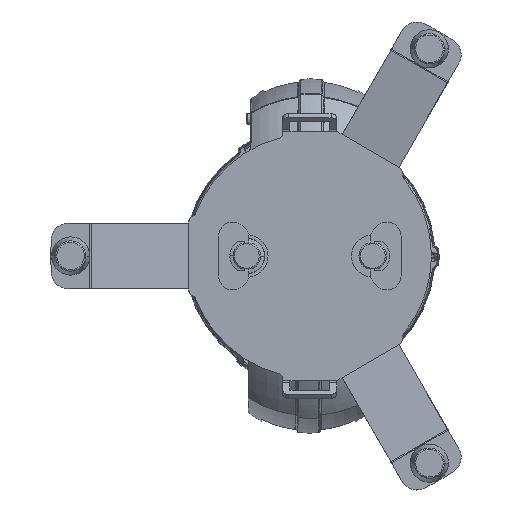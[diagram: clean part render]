
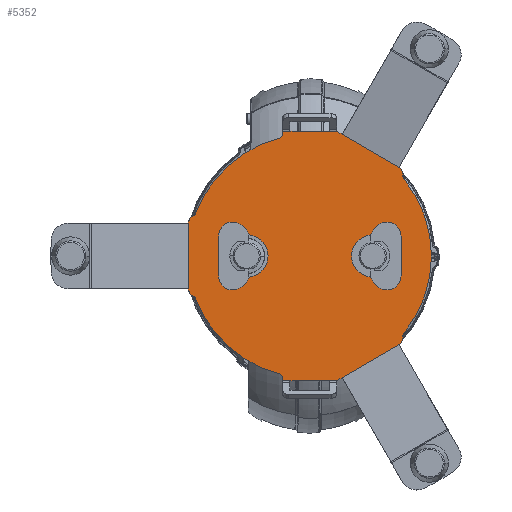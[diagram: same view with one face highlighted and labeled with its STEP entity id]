
A CAD part, front view. The second image highlights one B-rep face of the part: STEP entity #5352.
In plain terms, the highlighted planar face has unit normal (0, -1, 0).
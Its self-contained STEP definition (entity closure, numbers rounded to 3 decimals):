
#3941=DIRECTION('',(0.866,0.,-0.5));
#3942=VECTOR('',#3941,4.5);
#3943=CARTESIAN_POINT('',(19.,-43.5,88.172));
#3944=LINE('',#3943,#3942);
#3945=DIRECTION('',(0.866,0.,-0.5));
#3946=VECTOR('',#3945,46.263);
#3947=CARTESIAN_POINT('',(22.897,-43.5,85.922));
#3948=LINE('',#3947,#3946);
#3949=CARTESIAN_POINT('',(58.668,-43.5,57.262));
#3950=DIRECTION('',(0.,1.,0.));
#3951=DIRECTION('',(0.613,0.,0.79));
#3952=AXIS2_PLACEMENT_3D('',#3949,#3950,#3951);
#3954=CARTESIAN_POINT('',(69.664,-43.5,56.982));
#3955=DIRECTION('',(0.,-1.,0.));
#3956=DIRECTION('',(-1.,0.,0.025));
#3957=AXIS2_PLACEMENT_3D('',#3954,#3955,#3956);
#3959=CARTESIAN_POINT('',(0.,-43.5,0.));
#3960=DIRECTION('',(0.,1.,0.));
#3961=DIRECTION('',(0.774,0.,0.633));
#3962=AXIS2_PLACEMENT_3D('',#3959,#3960,#3961);
#3964=CARTESIAN_POINT('',(0.,-43.5,0.));
#3965=DIRECTION('',(0.,1.,0.));
#3966=DIRECTION('',(1.,0.,0.));
#3967=AXIS2_PLACEMENT_3D('',#3964,#3965,#3966);
#3969=CARTESIAN_POINT('',(69.664,-43.5,-56.982));
#3970=DIRECTION('',(0.,-1.,0.));
#3971=DIRECTION('',(-0.774,0.,0.633));
#3972=AXIS2_PLACEMENT_3D('',#3969,#3970,#3971);
#3974=CARTESIAN_POINT('',(58.668,-43.5,-57.262));
#3975=DIRECTION('',(0.,1.,0.));
#3976=DIRECTION('',(1.,0.,0.025));
#3977=AXIS2_PLACEMENT_3D('',#3974,#3975,#3976);
#3979=DIRECTION('',(-0.866,0.,-0.5));
#3980=VECTOR('',#3979,46.263);
#3981=CARTESIAN_POINT('',(62.962,-43.5,-62.79));
#3982=LINE('',#3981,#3980);
#3983=DIRECTION('',(-0.866,0.,-0.5));
#3984=VECTOR('',#3983,4.5);
#3985=CARTESIAN_POINT('',(22.897,-43.5,-85.922));
#3986=LINE('',#3985,#3984);
#3987=DIRECTION('',(-1.,0.,0.));
#3988=VECTOR('',#3987,28.);
#3989=CARTESIAN_POINT('',(14.,-43.5,-88.172));
#3990=LINE('',#3989,#3988);
#3991=DIRECTION('',(0.,0.,1.));
#3992=VECTOR('',#3991,1.16);
#3993=CARTESIAN_POINT('',(-19.,-43.5,-88.172));
#3994=LINE('',#3993,#3992);
#3995=CARTESIAN_POINT('',(-23.,-43.5,-87.011));
#3996=DIRECTION('',(0.,-1.,0.));
#3997=DIRECTION('',(1.,0.,0.));
#3998=AXIS2_PLACEMENT_3D('',#3995,#3996,#3997);
#4000=CARTESIAN_POINT('',(0.,-43.5,0.));
#4001=DIRECTION('',(0.,1.,0.));
#4002=DIRECTION('',(-0.256,0.,-0.967));
#4003=AXIS2_PLACEMENT_3D('',#4000,#4001,#4002);
#4005=CARTESIAN_POINT('',(-84.18,-43.5,-31.84));
#4006=DIRECTION('',(0.,-1.,0.));
#4007=DIRECTION('',(0.935,0.,0.354));
#4008=AXIS2_PLACEMENT_3D('',#4005,#4006,#4007);
#4010=CARTESIAN_POINT('',(-78.924,-43.5,-22.177));
#4011=DIRECTION('',(0.,1.,0.));
#4012=DIRECTION('',(-0.478,0.,-0.878));
#4013=AXIS2_PLACEMENT_3D('',#4010,#4011,#4012);
#4015=CARTESIAN_POINT('',(-78.924,-43.5,22.177));
#4016=DIRECTION('',(0.,1.,0.));
#4017=DIRECTION('',(-0.991,0.,0.136));
#4018=AXIS2_PLACEMENT_3D('',#4015,#4016,#4017);
#4020=CARTESIAN_POINT('',(-84.18,-43.5,31.84));
#4021=DIRECTION('',(0.,-1.,0.));
#4022=DIRECTION('',(0.478,0.,-0.878));
#4023=AXIS2_PLACEMENT_3D('',#4020,#4021,#4022);
#4025=CARTESIAN_POINT('',(0.,-43.5,0.));
#4026=DIRECTION('',(0.,1.,0.));
#4027=DIRECTION('',(-0.935,0.,0.354));
#4028=AXIS2_PLACEMENT_3D('',#4025,#4026,#4027);
#4030=CARTESIAN_POINT('',(-23.,-43.5,87.011));
#4031=DIRECTION('',(0.,-1.,0.));
#4032=DIRECTION('',(0.256,0.,-0.967));
#4033=AXIS2_PLACEMENT_3D('',#4030,#4031,#4032);
#4035=DIRECTION('',(0.,0.,1.));
#4036=VECTOR('',#4035,1.16);
#4037=CARTESIAN_POINT('',(-19.,-43.5,87.011));
#4038=LINE('',#4037,#4036);
#4043=DIRECTION('',(-1.,0.,0.));
#4044=VECTOR('',#4043,5.);
#4045=CARTESIAN_POINT('',(19.,-43.5,88.172));
#4046=LINE('',#4045,#4044);
#4533=DIRECTION('',(1.,0.,0.));
#4534=VECTOR('',#4533,5.);
#4535=CARTESIAN_POINT('',(14.,-43.5,-88.172));
#4536=LINE('',#4535,#4534);
#4672=DIRECTION('',(0.,0.,-1.));
#4673=VECTOR('',#4672,46.263);
#4674=CARTESIAN_POINT('',(-85.859,-43.5,23.131));
#4675=LINE('',#4674,#4673);
#4772=DIRECTION('',(1.,0.,0.));
#4773=VECTOR('',#4772,5.);
#4774=CARTESIAN_POINT('',(-19.,-43.5,-88.172));
#4775=LINE('',#4774,#4773);
#4975=DIRECTION('',(-1.,0.,0.));
#4976=VECTOR('',#4975,5.);
#4977=CARTESIAN_POINT('',(-14.,-43.5,88.172));
#4978=LINE('',#4977,#4976);
#4983=DIRECTION('',(-1.,0.,0.));
#4984=VECTOR('',#4983,28.);
#4985=CARTESIAN_POINT('',(14.,-43.5,88.172));
#4986=LINE('',#4985,#4984);
#4987=CARTESIAN_POINT('',(19.,-43.5,88.172));
#4988=CARTESIAN_POINT('',(14.,-43.5,88.172));
#4989=VERTEX_POINT('',#4987);
#4990=VERTEX_POINT('',#4988);
#4991=CARTESIAN_POINT('',(22.897,-43.5,85.922));
#4992=VERTEX_POINT('',#4991);
#4993=CARTESIAN_POINT('',(62.962,-43.5,62.79));
#4994=VERTEX_POINT('',#4993);
#4995=CARTESIAN_POINT('',(65.666,-43.5,57.084));
#4996=VERTEX_POINT('',#4995);
#4997=CARTESIAN_POINT('',(66.568,-43.5,54.449));
#4998=VERTEX_POINT('',#4997);
#4999=CARTESIAN_POINT('',(86.,-43.5,0.));
#5000=CARTESIAN_POINT('',(66.568,-43.5,-54.449));
#5001=VERTEX_POINT('',#4999);
#5002=VERTEX_POINT('',#5000);
#5003=CARTESIAN_POINT('',(65.666,-43.5,-57.084));
#5004=VERTEX_POINT('',#5003);
#5005=CARTESIAN_POINT('',(62.962,-43.5,-62.79));
#5006=VERTEX_POINT('',#5005);
#5007=CARTESIAN_POINT('',(22.897,-43.5,-85.922));
#5008=VERTEX_POINT('',#5007);
#5009=CARTESIAN_POINT('',(19.,-43.5,-88.172));
#5010=VERTEX_POINT('',#5009);
#5011=CARTESIAN_POINT('',(14.,-43.5,-88.172));
#5012=VERTEX_POINT('',#5011);
#5013=CARTESIAN_POINT('',(-14.,-43.5,-88.172));
#5014=VERTEX_POINT('',#5013);
#5015=CARTESIAN_POINT('',(-19.,-43.5,-88.172));
#5016=VERTEX_POINT('',#5015);
#5017=CARTESIAN_POINT('',(-19.,-43.5,-87.011));
#5018=VERTEX_POINT('',#5017);
#5019=CARTESIAN_POINT('',(-21.978,-43.5,-83.144));
#5020=VERTEX_POINT('',#5019);
#5021=CARTESIAN_POINT('',(-80.438,-43.5,-30.425));
#5022=VERTEX_POINT('',#5021);
#5023=CARTESIAN_POINT('',(-82.269,-43.5,-28.326));
#5024=VERTEX_POINT('',#5023);
#5025=CARTESIAN_POINT('',(-85.859,-43.5,-23.131));
#5026=VERTEX_POINT('',#5025);
#5027=CARTESIAN_POINT('',(-85.859,-43.5,23.131));
#5028=VERTEX_POINT('',#5027);
#5029=CARTESIAN_POINT('',(-82.269,-43.5,28.326));
#5030=VERTEX_POINT('',#5029);
#5031=CARTESIAN_POINT('',(-80.438,-43.5,30.425));
#5032=VERTEX_POINT('',#5031);
#5033=CARTESIAN_POINT('',(-21.978,-43.5,83.144));
#5034=VERTEX_POINT('',#5033);
#5035=CARTESIAN_POINT('',(-19.,-43.5,87.011));
#5036=VERTEX_POINT('',#5035);
#5037=CARTESIAN_POINT('',(-19.,-43.5,88.172));
#5038=VERTEX_POINT('',#5037);
#5039=CARTESIAN_POINT('',(-14.,-43.5,88.172));
#5040=VERTEX_POINT('',#5039);
#5291=CARTESIAN_POINT('',(0.,-43.5,0.));
#5292=DIRECTION('',(0.,1.,0.));
#5293=DIRECTION('',(-1.,0.,0.));
#5294=AXIS2_PLACEMENT_3D('',#5291,#5292,#5293);
#5295=PLANE('',#5294);
#5297=ORIENTED_EDGE('',*,*,#5296,.F.);
#5299=ORIENTED_EDGE('',*,*,#5298,.T.);
#5301=ORIENTED_EDGE('',*,*,#5300,.T.);
#5303=ORIENTED_EDGE('',*,*,#5302,.T.);
#5305=ORIENTED_EDGE('',*,*,#5304,.T.);
#5307=ORIENTED_EDGE('',*,*,#5306,.T.);
#5309=ORIENTED_EDGE('',*,*,#5308,.T.);
#5311=ORIENTED_EDGE('',*,*,#5310,.T.);
#5313=ORIENTED_EDGE('',*,*,#5312,.T.);
#5315=ORIENTED_EDGE('',*,*,#5314,.T.);
#5317=ORIENTED_EDGE('',*,*,#5316,.T.);
#5319=ORIENTED_EDGE('',*,*,#5318,.F.);
#5321=ORIENTED_EDGE('',*,*,#5320,.T.);
#5323=ORIENTED_EDGE('',*,*,#5322,.F.);
#5325=ORIENTED_EDGE('',*,*,#5324,.T.);
#5327=ORIENTED_EDGE('',*,*,#5326,.T.);
#5329=ORIENTED_EDGE('',*,*,#5328,.T.);
#5331=ORIENTED_EDGE('',*,*,#5330,.T.);
#5333=ORIENTED_EDGE('',*,*,#5332,.T.);
#5335=ORIENTED_EDGE('',*,*,#5334,.F.);
#5337=ORIENTED_EDGE('',*,*,#5336,.T.);
#5339=ORIENTED_EDGE('',*,*,#5338,.T.);
#5341=ORIENTED_EDGE('',*,*,#5340,.T.);
#5343=ORIENTED_EDGE('',*,*,#5342,.T.);
#5345=ORIENTED_EDGE('',*,*,#5344,.T.);
#5347=ORIENTED_EDGE('',*,*,#5346,.F.);
#5349=ORIENTED_EDGE('',*,*,#5348,.F.);
#5350=EDGE_LOOP('',(#5297,#5299,#5301,#5303,#5305,#5307,#5309,#5311,#5313,#5315,
#5317,#5319,#5321,#5323,#5325,#5327,#5329,#5331,#5333,#5335,#5337,#5339,#5341,
#5343,#5345,#5347,#5349));
#5351=FACE_OUTER_BOUND('',#5350,.F.);
#3953=CIRCLE('',#3952,7.);
#3958=CIRCLE('',#3957,4.);
#3963=CIRCLE('',#3962,86.);
#3968=CIRCLE('',#3967,86.);
#3973=CIRCLE('',#3972,4.);
#3978=CIRCLE('',#3977,7.);
#3999=CIRCLE('',#3998,4.);
#4004=CIRCLE('',#4003,86.);
#4009=CIRCLE('',#4008,4.);
#4014=CIRCLE('',#4013,7.);
#4019=CIRCLE('',#4018,7.);
#4024=CIRCLE('',#4023,4.);
#4029=CIRCLE('',#4028,86.);
#4034=CIRCLE('',#4033,4.);
#5296=EDGE_CURVE('',#4989,#4990,#4046,.T.);
#5298=EDGE_CURVE('',#4989,#4992,#3944,.T.);
#5300=EDGE_CURVE('',#4992,#4994,#3948,.T.);
#5302=EDGE_CURVE('',#4994,#4996,#3953,.T.);
#5304=EDGE_CURVE('',#4996,#4998,#3958,.T.);
#5306=EDGE_CURVE('',#4998,#5001,#3963,.T.);
#5308=EDGE_CURVE('',#5001,#5002,#3968,.T.);
#5310=EDGE_CURVE('',#5002,#5004,#3973,.T.);
#5312=EDGE_CURVE('',#5004,#5006,#3978,.T.);
#5314=EDGE_CURVE('',#5006,#5008,#3982,.T.);
#5316=EDGE_CURVE('',#5008,#5010,#3986,.T.);
#5318=EDGE_CURVE('',#5012,#5010,#4536,.T.);
#5320=EDGE_CURVE('',#5012,#5014,#3990,.T.);
#5322=EDGE_CURVE('',#5016,#5014,#4775,.T.);
#5324=EDGE_CURVE('',#5016,#5018,#3994,.T.);
#5326=EDGE_CURVE('',#5018,#5020,#3999,.T.);
#5328=EDGE_CURVE('',#5020,#5022,#4004,.T.);
#5330=EDGE_CURVE('',#5022,#5024,#4009,.T.);
#5332=EDGE_CURVE('',#5024,#5026,#4014,.T.);
#5334=EDGE_CURVE('',#5028,#5026,#4675,.T.);
#5336=EDGE_CURVE('',#5028,#5030,#4019,.T.);
#5338=EDGE_CURVE('',#5030,#5032,#4024,.T.);
#5340=EDGE_CURVE('',#5032,#5034,#4029,.T.);
#5342=EDGE_CURVE('',#5034,#5036,#4034,.T.);
#5344=EDGE_CURVE('',#5036,#5038,#4038,.T.);
#5346=EDGE_CURVE('',#5040,#5038,#4978,.T.);
#5348=EDGE_CURVE('',#4990,#5040,#4986,.T.);
#5352=ADVANCED_FACE('',(#5351),#5295,.F.);
